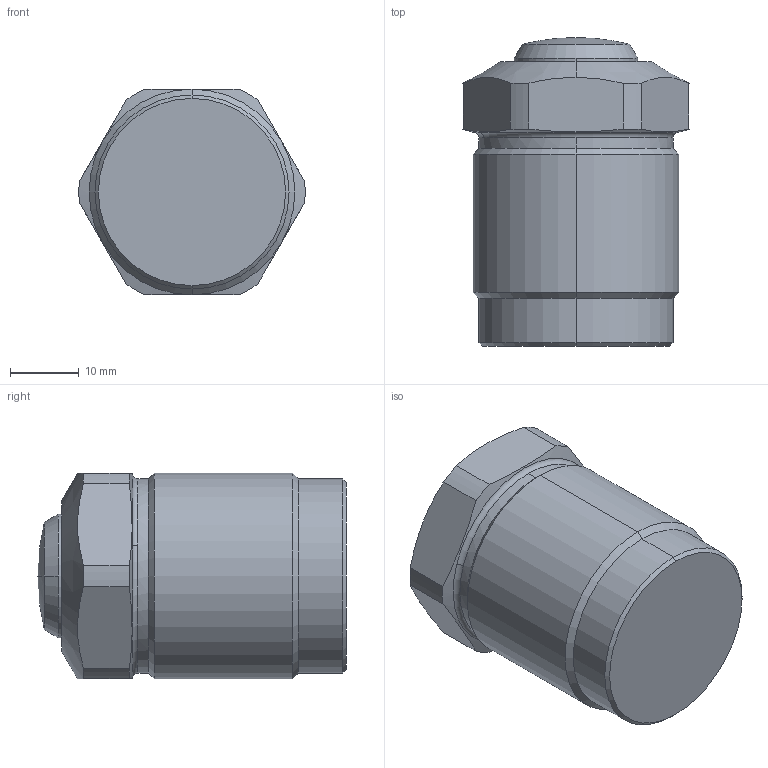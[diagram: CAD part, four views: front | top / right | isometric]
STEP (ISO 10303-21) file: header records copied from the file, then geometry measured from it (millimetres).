
FILE_DESCRIPTION((' '),'2;1');
FILE_NAME( 'CMC06-10R.X_T.stp', '2024-08-27T13:58:38', (' '), ('--- Datakit www.datakit.com---'), ' Datakit CrossCadWare V2024.1 Dec 21 2023', 'Mastercam 2025', ' ');
FILE_SCHEMA(('AUTOMOTIVE_DESIGN { 1 0 10303 214 1 1 1 1 }'));
Length unit declared in the file: millimetre
Products named in the file (1): CMC06-10R
Bounding box: 32.98 x 45 x 30 mm (x, y, z)
Volume: 29305.6 mm3; surface area: 6979.1 mm2
Topology: 2 solids, 2 shells, 42 faces, 102 edges, 63 vertices
Faces by surface type: cylinder 16, cone 12, plane 10, torus 2, sphere 2
Entity records: 1332 total; most frequent: CARTESIAN_POINT 322, DIRECTION 220, ORIENTED_EDGE 200, EDGE_CURVE 100, AXIS2_PLACEMENT_3D 93, VERTEX_POINT 63, CIRCLE 50, EDGE_LOOP 43
